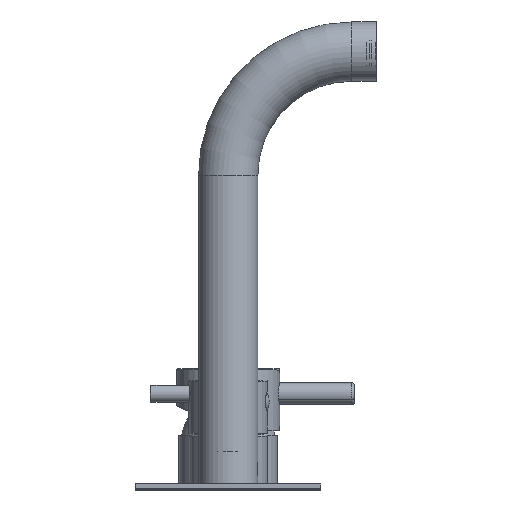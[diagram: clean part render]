
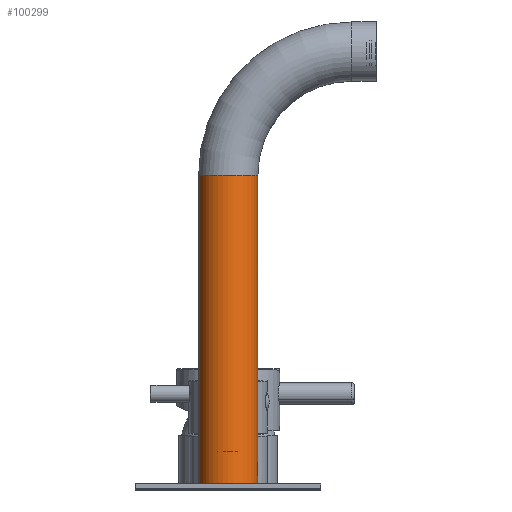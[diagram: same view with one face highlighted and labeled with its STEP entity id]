
A CAD part, top view. The second image highlights one B-rep face of the part: STEP entity #100299.
In plain terms, the highlighted cylindrical face has radius 12 mm (diameter 24 mm), a partial arc.
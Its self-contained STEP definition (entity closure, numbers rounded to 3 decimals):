
#92485=CARTESIAN_POINT('',(0.,202.,110.));
#92486=DIRECTION('',(0.,1.,0.));
#92487=DIRECTION('',(-1.,0.,0.));
#92488=AXIS2_PLACEMENT_3D('',#92485,#92486,#92487);
#92495=CARTESIAN_POINT('',(0.,77.,110.));
#92496=DIRECTION('',(0.,1.,0.));
#92497=DIRECTION('',(-1.,0.,0.));
#92498=AXIS2_PLACEMENT_3D('',#92495,#92496,#92497);
#92500=DIRECTION('',(0.,1.,0.));
#92501=VECTOR('',#92500,125.);
#92502=CARTESIAN_POINT('',(-12.,77.,110.));
#92503=LINE('',#92502,#92501);
#92504=CARTESIAN_POINT('',(12.,80.4,110.));
#92505=CARTESIAN_POINT('',(12.,80.4,110.044));
#92506=CARTESIAN_POINT('',(12.,80.403,110.131));
#92507=CARTESIAN_POINT('',(11.997,80.415,110.261));
#92508=CARTESIAN_POINT('',(11.994,80.435,110.391));
#92509=CARTESIAN_POINT('',(11.989,80.463,110.521));
#92510=CARTESIAN_POINT('',(11.983,80.499,110.649));
#92511=CARTESIAN_POINT('',(11.975,80.543,110.776));
#92512=CARTESIAN_POINT('',(11.966,80.596,110.901));
#92513=CARTESIAN_POINT('',(11.956,80.657,111.025));
#92514=CARTESIAN_POINT('',(11.945,80.726,111.146));
#92515=CARTESIAN_POINT('',(11.933,80.803,111.264));
#92516=CARTESIAN_POINT('',(11.921,80.888,111.379));
#92517=CARTESIAN_POINT('',(11.907,80.982,111.49));
#92518=CARTESIAN_POINT('',(11.893,81.083,111.597));
#92519=CARTESIAN_POINT('',(11.879,81.192,111.698));
#92520=CARTESIAN_POINT('',(11.865,81.308,111.795));
#92521=CARTESIAN_POINT('',(11.851,81.431,111.885));
#92522=CARTESIAN_POINT('',(11.838,81.56,111.969));
#92523=CARTESIAN_POINT('',(11.824,81.695,112.045));
#92524=CARTESIAN_POINT('',(11.812,81.836,112.115));
#92525=CARTESIAN_POINT('',(11.801,81.981,112.176));
#92526=CARTESIAN_POINT('',(11.791,82.131,112.23));
#92527=CARTESIAN_POINT('',(11.783,82.284,112.274));
#92528=CARTESIAN_POINT('',(11.775,82.44,112.31));
#92529=CARTESIAN_POINT('',(11.77,82.599,112.338));
#92530=CARTESIAN_POINT('',(11.766,82.759,112.356));
#92531=CARTESIAN_POINT('',(11.765,82.92,112.365));
#92532=CARTESIAN_POINT('',(11.765,83.081,112.365));
#92533=CARTESIAN_POINT('',(11.766,83.241,112.356));
#92534=CARTESIAN_POINT('',(11.77,83.401,112.338));
#92535=CARTESIAN_POINT('',(11.775,83.56,112.31));
#92536=CARTESIAN_POINT('',(11.783,83.716,112.274));
#92537=CARTESIAN_POINT('',(11.791,83.869,112.23));
#92538=CARTESIAN_POINT('',(11.801,84.019,112.176));
#92539=CARTESIAN_POINT('',(11.812,84.164,112.115));
#92540=CARTESIAN_POINT('',(11.824,84.305,112.045));
#92541=CARTESIAN_POINT('',(11.838,84.44,111.969));
#92542=CARTESIAN_POINT('',(11.851,84.569,111.885));
#92543=CARTESIAN_POINT('',(11.865,84.692,111.795));
#92544=CARTESIAN_POINT('',(11.879,84.808,111.698));
#92545=CARTESIAN_POINT('',(11.893,84.917,111.597));
#92546=CARTESIAN_POINT('',(11.907,85.018,111.49));
#92547=CARTESIAN_POINT('',(11.921,85.112,111.379));
#92548=CARTESIAN_POINT('',(11.933,85.197,111.264));
#92549=CARTESIAN_POINT('',(11.945,85.274,111.146));
#92550=CARTESIAN_POINT('',(11.956,85.343,111.025));
#92551=CARTESIAN_POINT('',(11.966,85.404,110.901));
#92552=CARTESIAN_POINT('',(11.975,85.457,110.776));
#92553=CARTESIAN_POINT('',(11.983,85.501,110.649));
#92554=CARTESIAN_POINT('',(11.989,85.537,110.521));
#92555=CARTESIAN_POINT('',(11.994,85.565,110.391));
#92556=CARTESIAN_POINT('',(11.997,85.585,110.261));
#92557=CARTESIAN_POINT('',(12.,85.597,110.131));
#92558=CARTESIAN_POINT('',(12.,85.6,110.044));
#92559=CARTESIAN_POINT('',(12.,85.6,110.));
#92718=DIRECTION('',(0.,1.,0.));
#92719=VECTOR('',#92718,3.4);
#92720=CARTESIAN_POINT('',(12.,77.,110.));
#92721=LINE('',#92720,#92719);
#92779=DIRECTION('',(0.,1.,0.));
#92780=VECTOR('',#92779,116.4);
#92781=CARTESIAN_POINT('',(12.,85.6,110.));
#92782=LINE('',#92781,#92780);
#94617=CARTESIAN_POINT('',(-12.,202.,110.));
#94618=CARTESIAN_POINT('',(12.,202.,110.));
#94619=VERTEX_POINT('',#94617);
#94620=VERTEX_POINT('',#94618);
#94720=VERTEX_POINT('',#92504);
#94721=VERTEX_POINT('',#92559);
#94892=CARTESIAN_POINT('',(-12.,77.,110.));
#94893=CARTESIAN_POINT('',(12.,77.,110.));
#94894=VERTEX_POINT('',#94892);
#94895=VERTEX_POINT('',#94893);
#100281=CARTESIAN_POINT('',(0.,77.,110.));
#100282=DIRECTION('',(0.,1.,0.));
#100283=DIRECTION('',(-1.,0.,0.));
#100284=AXIS2_PLACEMENT_3D('',#100281,#100282,#100283);
#100285=CYLINDRICAL_SURFACE('',#100284,12.);
#100287=ORIENTED_EDGE('',*,*,#100286,.F.);
#100289=ORIENTED_EDGE('',*,*,#100288,.T.);
#100290=ORIENTED_EDGE('',*,*,#100271,.T.);
#100292=ORIENTED_EDGE('',*,*,#100291,.F.);
#100294=ORIENTED_EDGE('',*,*,#100293,.F.);
#100296=ORIENTED_EDGE('',*,*,#100295,.F.);
#100297=EDGE_LOOP('',(#100287,#100289,#100290,#100292,#100294,#100296));
#100298=FACE_OUTER_BOUND('',#100297,.F.);
#100299=ADVANCED_FACE('',(#100298),#100285,.T.);
#92489=CIRCLE('',#92488,12.);
#92499=CIRCLE('',#92498,12.);
#92560=B_SPLINE_CURVE_WITH_KNOTS('',3,(#92504,#92505,#92506,#92507,#92508,
#92509,#92510,#92511,#92512,#92513,#92514,#92515,#92516,#92517,#92518,#92519,
#92520,#92521,#92522,#92523,#92524,#92525,#92526,#92527,#92528,#92529,#92530,
#92531,#92532,#92533,#92534,#92535,#92536,#92537,#92538,#92539,#92540,#92541,
#92542,#92543,#92544,#92545,#92546,#92547,#92548,#92549,#92550,#92551,#92552,
#92553,#92554,#92555,#92556,#92557,#92558,#92559),.UNSPECIFIED.,.F.,.F.,(4,1,1,
1,1,1,1,1,1,1,1,1,1,1,1,1,1,1,1,1,1,1,1,1,1,1,1,1,1,1,1,1,1,1,1,1,1,1,1,1,1,1,1,
1,1,1,1,1,1,1,1,1,1,4),(0.,0.019,0.038,
0.057,0.075,0.094,0.113,
0.132,0.151,0.17,0.189,
0.208,0.226,0.245,0.264,
0.283,0.302,0.321,0.34,
0.358,0.377,0.396,0.415,
0.434,0.453,0.472,0.491,
0.509,0.528,0.547,0.566,
0.585,0.604,0.623,0.642,
0.66,0.679,0.698,0.717,
0.736,0.755,0.774,0.792,
0.811,0.83,0.849,0.868,
0.887,0.906,0.925,0.943,
0.962,0.981,1.),.UNSPECIFIED.);
#100271=EDGE_CURVE('',#94619,#94620,#92489,.T.);
#100286=EDGE_CURVE('',#94894,#94895,#92499,.T.);
#100288=EDGE_CURVE('',#94894,#94619,#92503,.T.);
#100291=EDGE_CURVE('',#94721,#94620,#92782,.T.);
#100293=EDGE_CURVE('',#94720,#94721,#92560,.T.);
#100295=EDGE_CURVE('',#94895,#94720,#92721,.T.);
